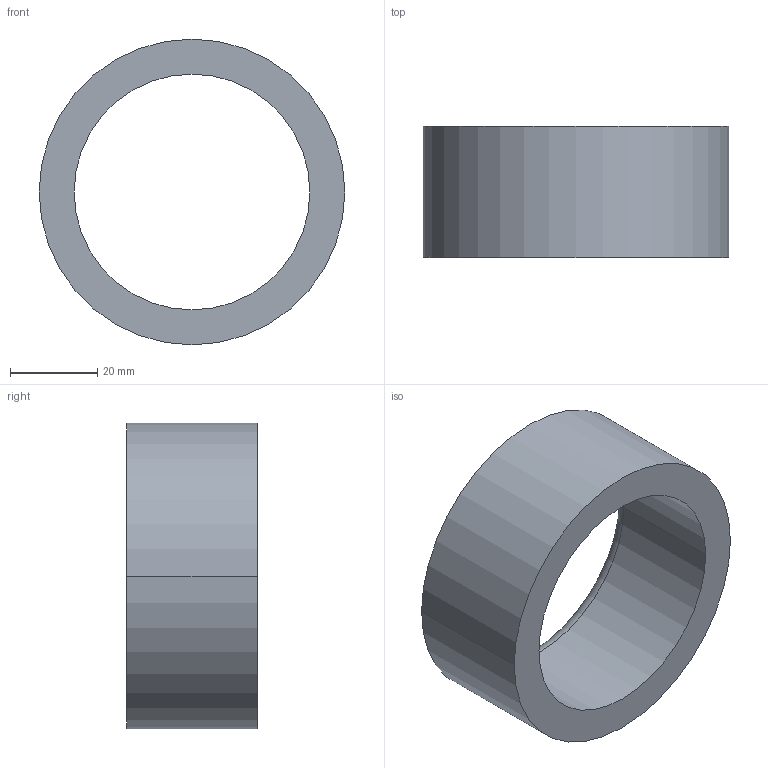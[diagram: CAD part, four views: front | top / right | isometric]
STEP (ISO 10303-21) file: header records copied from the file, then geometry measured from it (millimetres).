
FILE_DESCRIPTION (( 'STEP AP203' ), '1' );
FILE_NAME ('30800.WPP70L54.0.step', '2019-01-23T23:01:15', ( '' ), ( '' ), 'SwSTEP 2.0', 'SolidWorks 2017', '' );
FILE_SCHEMA (( 'CONFIG_CONTROL_DESIGN' ));
Length unit declared in the file: millimetre
Products named in the file (1): 30800.WPP70L54.0
Bounding box: 70 x 30 x 70 mm (x, y, z)
Volume: 46288 mm3; surface area: 14553.8 mm2
Topology: 1 solids, 1 shells, 8 faces, 16 edges, 10 vertices
Faces by surface type: cylinder 4, torus 2, plane 2
Entity records: 297 total; most frequent: DIRECTION 46, CARTESIAN_POINT 35, ORIENTED_EDGE 32, AXIS2_PLACEMENT_3D 21, EDGE_CURVE 16, CIRCLE 12, VERTEX_POINT 10, EDGE_LOOP 10
